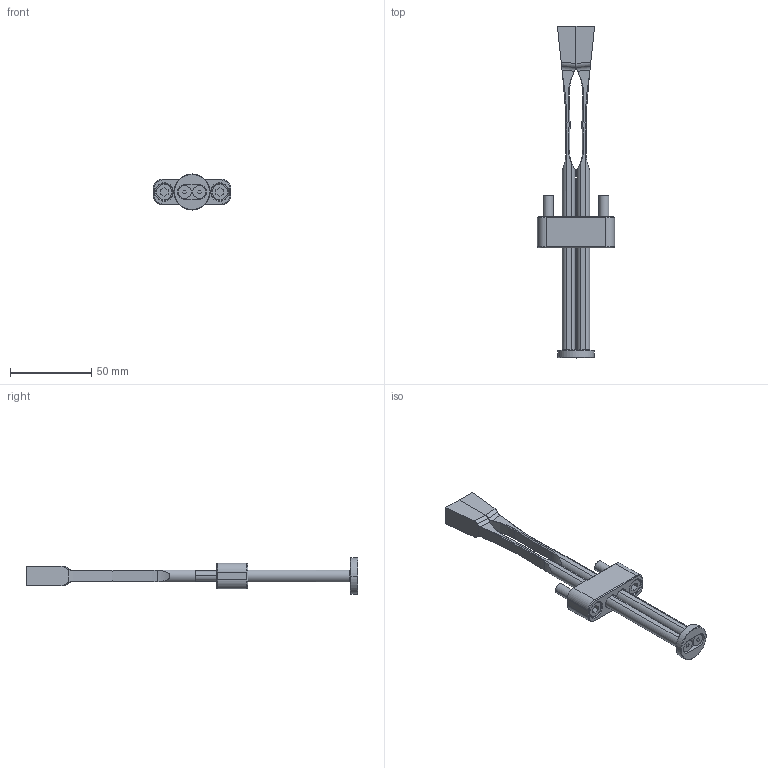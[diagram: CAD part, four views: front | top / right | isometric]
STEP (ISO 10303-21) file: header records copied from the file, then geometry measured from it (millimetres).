
FILE_DESCRIPTION (( 'STEP AP203' ), '1' );
FILE_NAME ('FCDA45X48L7.step', '2020-08-24T21:13:37', ( 'Microsoft Corporation' ), ( 'MS' ), 'SwSTEP 2.0', 'SolidWorks 2018', '' );
FILE_SCHEMA (( 'CONFIG_CONTROL_DESIGN' ));
Length unit declared in the file: inch
Products named in the file (4): FC45X48L7; FCDHP-10; FCDA45X48L7; FCDBG-48
Assembly tree (4 placements, depth 2):
  FCDA45X48L7
    FC45X48L7  x2
    FCDHP-10
    FCDBG-48
Bounding box: 47.62 x 204.76 x 22.23 mm (x, y, z)
Volume: 33455.1 mm3; surface area: 20347.2 mm2
Topology: 8 solids, 8 shells, 218 faces, 503 edges, 310 vertices
Faces by surface type: plane 95, cylinder 71, cone 44, bspline 8
Entity records: 5942 total; most frequent: CARTESIAN_POINT 1454, DIRECTION 858, ORIENTED_EDGE 816, EDGE_CURVE 408, AXIS2_PLACEMENT_3D 319, VERTEX_POINT 253, VECTOR 220, LINE 220
